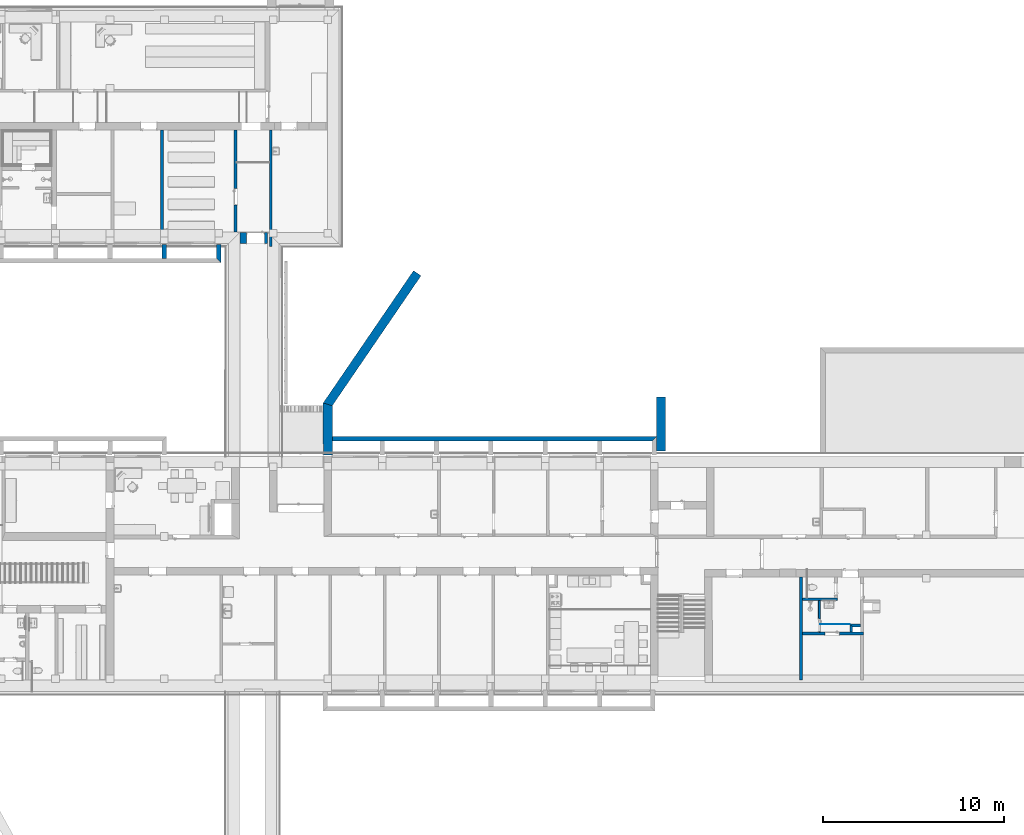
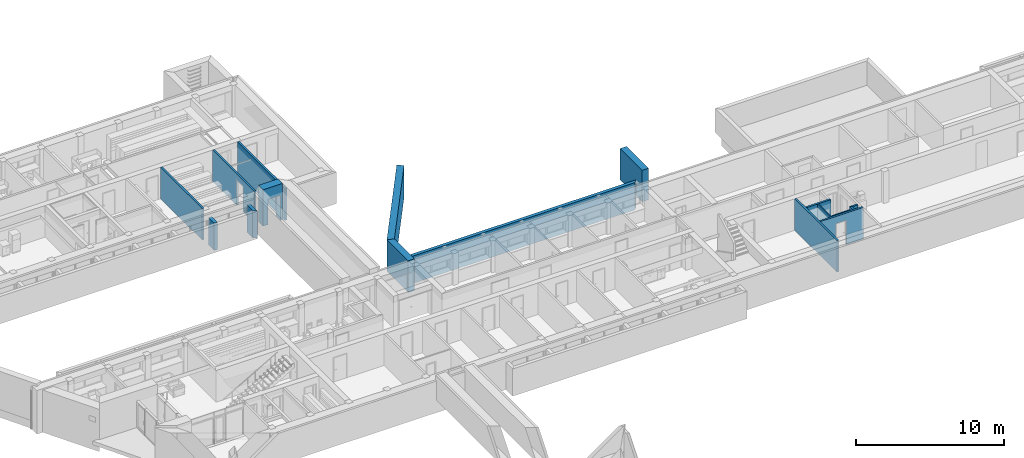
# One storey, part 11 of 127: 17 walls, 4 openings.
"""IFC2X3 building model written with IfcOpenShell, lengths in millimetres."""

from ifc_helpers import new_model, entity, si_unit, converted_unit, derived_unit, money_unit, direction, frame, origin_with_axes, origin_2d_with_axis, place, context, subcontext, project, spatial, polyline, rectangle, outline, extrude, material, layer, layer_set, layer_usage, type_object, element, save


model = new_model("IFC2X3")

# Units and contexts
model_context = context("Model", 3, precision=1e-05, world=origin_with_axes(), true_north=direction((0.0, 1.0)))
body_context = subcontext(model_context, "Body", "Model", "MODEL_VIEW")
ifc_project = project(units=[si_unit("LENGTHUNIT", "METRE", prefix="MILLI"), si_unit("AREAUNIT", "SQUARE_METRE"), si_unit("VOLUMEUNIT", "CUBIC_METRE"), converted_unit("PLANEANGLEUNIT", "DEGREE", entity("IfcPlaneAngleMeasure", 0.0174532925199), si_unit("PLANEANGLEUNIT", "RADIAN"), dimensions=[0, 0, 0, 0, 0, 0, 0]), si_unit("SOLIDANGLEUNIT", "STERADIAN"), money_unit("EUR"), converted_unit("TIMEUNIT", "Year", entity("IfcTimeMeasure", 31556926.0), si_unit("TIMEUNIT", "SECOND"), dimensions=[0, 0, 1, 0, 0, 0, 0]), si_unit("MASSUNIT", "GRAM", prefix="KILO"), si_unit("THERMODYNAMICTEMPERATUREUNIT", "DEGREE_CELSIUS"), si_unit("LUMINOUSINTENSITYUNIT", "LUMEN"), si_unit("ENERGYUNIT", "JOULE", prefix="MEGA"), derived_unit("THERMALCONDUCTANCEUNIT", [(si_unit("POWERUNIT", "WATT"), 1), (si_unit("LENGTHUNIT", "METRE"), -1), (si_unit("THERMODYNAMICTEMPERATUREUNIT", "KELVIN"), -1)]), derived_unit("SPECIFICHEATCAPACITYUNIT", [(si_unit("ENERGYUNIT", "JOULE"), 1), (si_unit("MASSUNIT", "GRAM", prefix="KILO"), -1), (si_unit("THERMODYNAMICTEMPERATUREUNIT", "KELVIN"), -1)]), derived_unit("MASSDENSITYUNIT", [(si_unit("MASSUNIT", "GRAM", prefix="KILO"), 1), (si_unit("VOLUMEUNIT", "CUBIC_METRE"), -1)])], contexts=[model_context])

# Site, building, storey
site_placement = place(None, origin_with_axes())
site = spatial("IfcSite", under=ifc_project, at=site_placement, Name="Site", CompositionType="ELEMENT")
building_placement = place(site_placement, origin_with_axes())
building = spatial("IfcBuilding", under=site, at=building_placement, Name="Building", CompositionType="ELEMENT")
storey_placement = place(building_placement, origin_with_axes())
storey = spatial("IfcBuildingStorey", under=building, at=storey_placement, Name="1 KORRUS", CompositionType="ELEMENT", Elevation=0.0)

# Wall
ifc_material_1 = material(Name="Kivi -Ol.Olev Konstruktsioon")
ifc_layer_1 = layer(ifc_material_1, 150.0, ventilated="UNKNOWN")
ifc_layer_set_1 = layer_set([ifc_layer_1], Name="ol.olev ss 150")
ifc_layer_usage_1 = layer_usage(ifc_layer_set_1, "AXIS2", "NEGATIVE", 150.0)
wall_type_1 = type_object("IfcWallType", Name="SW - 036", PredefinedType="NOTDEFINED")
wall_1_placement = place(storey_placement, frame((39733.2475145, 65636.3690561, 0.0), z_axis=(0.0, 0.0, 1.0), x_axis=(0.0, -1.0, 0.0)))
element("IfcWallStandardCase", 1, at=wall_1_placement, inside=storey, type_object=wall_type_1, material=ifc_layer_usage_1, Name="ol.olev ss 150", context=body_context, shape_type="SweptSolid", body=[
    extrude(outline(polyline([(420.0, 0.0), (6836.93188809, 0.0), (6836.93188809, 150.0), (420.0, 150.0), (420.0, 0.0)])), origin_with_axes(), (0.0, 0.0, 1.0), 2600.0),
])

# Wall, opening
ifc_layer_usage_2 = layer_usage(ifc_layer_set_1, "AXIS2", "POSITIVE", 0.0)
wall_2_placement = place(storey_placement, frame((37793.462216, 65636.3690561, 0.0), z_axis=(0.0, 0.0, 1.0), x_axis=(0.0, -1.0, 0.0)))
wall_2 = element("IfcWallStandardCase", 2, at=wall_2_placement, inside=storey, type_object=wall_type_1, material=ifc_layer_usage_2, Name="ol.olev ss 150", context=body_context, shape_type="SweptSolid", body=[
    extrude(outline(polyline([(420.0, 0.0), (6047.24114854, 0.0), (6047.24114854, 150.0), (420.0, 150.0), (420.0, 0.0)])), origin_with_axes(), (0.0, 0.0, 1.0), 2600.0),
])
opening_1_placement = place(wall_2_placement, frame((4090.35977759, 0.0, 0.0), z_axis=(0.0, 0.0, 1.0), x_axis=(1.0, 0.0, 0.0)))
element("IfcOpeningElement", 3, at=opening_1_placement, cuts=wall_2, Name="Siseuks * Door 22", context=body_context, shape_type="SweptSolid", body=[
    extrude(rectangle(XDim=900.0, YDim=2100.0, at=origin_2d_with_axis()), frame((0.0, 150.0, 1050.0), z_axis=(0.0, 1.0, 0.0), x_axis=(1.0, 0.0, 0.0)), (0.0, 0.0, -1.0), 450.0),
    extrude(rectangle(XDim=974.0, YDim=2137.0, at=origin_2d_with_axis()), frame((0.0, 150.0, 1068.5), z_axis=(0.0, 1.0, 0.0), x_axis=(1.0, 0.0, 0.0)), (0.0, 0.0, 1.0), 150.0),
    extrude(rectangle(XDim=974.0, YDim=2137.0, at=origin_2d_with_axis()), frame((0.0, 0.0, 1068.5), z_axis=(0.0, -1.0, 0.0), x_axis=(1.0, 0.0, 0.0)), (0.0, 0.0, 1.0), 150.0),
])

# Walls
ifc_layer_usage_3 = layer_usage(ifc_layer_set_1, "AXIS2", "POSITIVE", 0.0)
wall_3_placement = place(storey_placement, frame((33734.6783438, 65636.3690561, 0.0), z_axis=(0.0, 0.0, 1.0), x_axis=(0.0, -1.0, 0.0)))
element("IfcWallStandardCase", 4, at=wall_3_placement, inside=storey, type_object=wall_type_1, material=ifc_layer_usage_3, Name="ol.olev ss 150", context=body_context, shape_type="SweptSolid", body=[
    extrude(outline(polyline([(420.0, 0.0), (6047.73738995, 0.0), (6047.72028695, 150.0), (420.0, 150.0), (420.0, 0.0)])), origin_with_axes(), (0.0, 0.0, 1.0), 2600.0),
])
ifc_layer_usage_4 = layer_usage(ifc_layer_set_1, "AXIS2", "POSITIVE", 0.0)
wall_4_placement = place(storey_placement, frame((68966.1772401, 40582.5420651, 0.0), z_axis=(0.0, 0.0, 1.0), x_axis=(0.000221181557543, -0.999999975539, 0.0)))
element("IfcWallStandardCase", 5, at=wall_4_placement, inside=storey, type_object=wall_type_1, material=ifc_layer_usage_4, Name="ol.olev ss 150", context=body_context, shape_type="SweptSolid", body=[
    extrude(outline(polyline([(0.0, 0.0), (5692.1610269, 0.0), (5692.18399011, 150.0), (9.09494701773e-10, 150.0), (0.0, 0.0)])), origin_with_axes(), (0.0, 0.0, 1.0), 2600.0),
])

# Wall, opening
ifc_layer_2 = layer(ifc_material_1, 100.0, ventilated="UNKNOWN")
ifc_layer_set_2 = layer_set([ifc_layer_2], Name="ol.olev ss 100")
ifc_layer_usage_5 = layer_usage(ifc_layer_set_2, "AXIS2", "POSITIVE", 0.0)
wall_5_placement = place(storey_placement, frame((69999.2702894, 39274.0649255, 0.0), z_axis=(0.0, 0.0, 1.0), x_axis=(0.0, -1.0, 0.0)))
wall_5 = element("IfcWallStandardCase", 6, at=wall_5_placement, inside=storey, type_object=wall_type_1, material=ifc_layer_usage_5, Name="ol.olev ss 100", context=body_context, shape_type="SweptSolid", body=[
    extrude(outline(polyline([(0.0, 0.0), (1739.99999933, 0.0), (1739.99999934, 100.0), (0.0, 100.0), (0.0, 0.0)])), origin_with_axes(), (0.0, 0.0, 1.0), 2600.0),
])
opening_2_placement = place(wall_5_placement, frame((1354.10934327, 0.0, 0.0), z_axis=(0.0, 0.0, 1.0), x_axis=(1.0, 0.0, 0.0)))
element("IfcOpeningElement", 7, at=opening_2_placement, cuts=wall_5, Name="Siseuks * Door 22", context=body_context, shape_type="SweptSolid", body=[
    extrude(rectangle(XDim=700.000000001, YDim=2000.0, at=origin_2d_with_axis()), frame((0.0, -100.0, 1000.0), z_axis=(0.0, 1.0, 0.0), x_axis=(1.0, 0.0, 0.0)), (0.0, 0.0, 1.0), 300.0),
    extrude(rectangle(XDim=773.999999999, YDim=2037.0, at=origin_2d_with_axis()), frame((0.0, 0.0, 1018.5), z_axis=(0.0, 1.0, 0.0), x_axis=(1.0, 0.0, 0.0)), (0.0, 0.0, -1.0), 100.0),
    extrude(rectangle(XDim=773.999999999, YDim=2037.0, at=origin_2d_with_axis()), frame((0.0, 100.0, 1018.5), z_axis=(0.0, -1.0, 0.0), x_axis=(1.0, 0.0, 0.0)), (0.0, 0.0, -1.0), 100.0),
])

# Wall
ifc_layer_usage_6 = layer_usage(ifc_layer_set_1, "AXIS2", "POSITIVE", 0.0)
wall_6_placement = place(storey_placement, frame((68966.4666511, 39274.0649255, 0.0), z_axis=(0.0, 0.0, 1.0), x_axis=(1.0, 0.0, 0.0)))
element("IfcWallStandardCase", 8, at=wall_6_placement, inside=storey, type_object=wall_type_1, material=ifc_layer_usage_6, Name="ol.olev ss 150", context=body_context, shape_type="SweptSolid", body=[
    extrude(outline(polyline([(150.00000367, 0.0), (2070.72989408, 0.0), (2070.72989408, 150.0), (149.966826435, 150.0), (150.00000367, 0.0)])), origin_with_axes(), (0.0, 0.0, 1.0), 2600.0),
])

# Wall, opening
ifc_layer_usage_7 = layer_usage(ifc_layer_set_1, "AXIS2", "POSITIVE", 0.0)
wall_7_placement = place(storey_placement, frame((68966.8846843, 37384.0649263, 0.0), z_axis=(0.0, 0.0, 1.0), x_axis=(1.0, -1.34713439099e-10, 0.0)))
wall_7 = element("IfcWallStandardCase", 9, at=wall_7_placement, inside=storey, type_object=wall_type_1, material=ifc_layer_usage_7, Name="ol.olev ss 150", context=body_context, shape_type="SweptSolid", body=[
    extrude(outline(polyline([(150.000003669, 0.0), (3510.69090126, 0.0), (3510.69090126, 150.0), (149.966826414, 150.0), (150.000003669, 0.0)])), origin_with_axes(), (0.0, 0.0, 1.0), 2600.0),
])
opening_3_placement = place(wall_7_placement, frame((1781.25722341, -9.09494701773e-10, 0.0), z_axis=(0.0, 0.0, 1.0), x_axis=(1.0, 0.0, 0.0)))
element("IfcOpeningElement", 10, at=opening_3_placement, cuts=wall_7, Name="Siseuks * Door 22", context=body_context, shape_type="SweptSolid", body=[
    extrude(rectangle(XDim=800.0, YDim=2000.0, at=origin_2d_with_axis()), frame((2.02362571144e-08, -150.0, 1000.0), z_axis=(1.34713439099e-10, -1.0, 0.0), x_axis=(-1.0, -1.34713439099e-10, 0.0)), (0.0, 0.0, -1.0), 450.0),
    extrude(rectangle(XDim=874.0, YDim=2037.0, at=origin_2d_with_axis()), frame((0.0, 2.40106601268e-07, 1018.5), z_axis=(1.34713439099e-10, -1.0, 0.0), x_axis=(-1.0, -1.34713439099e-10, 0.0)), (0.0, 0.0, 1.0), 150.0),
    extrude(rectangle(XDim=874.0, YDim=2037.0, at=origin_2d_with_axis()), frame((-2.01225702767e-08, 150.00000024, 1018.5), z_axis=(-1.34713439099e-10, 1.0, 0.0), x_axis=(-1.0, -1.34713439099e-10, 0.0)), (0.0, 0.0, 1.0), 150.0),
])

# Walls
ifc_material_2 = material(Name="Kivi - Ol.Olev Konstruktsioon")
ifc_layer_3 = layer(ifc_material_2, 250.0, ventilated="UNKNOWN")
ifc_layer_set_3 = layer_set([ifc_layer_3], Name="Ol.olve tugimüür 250")
ifc_layer_usage_8 = layer_usage(ifc_layer_set_3, "AXIS2", "NEGATIVE", 125.0)
wall_type_2 = type_object("IfcWallType", Name="SW - 029", PredefinedType="NOTDEFINED")
wall_8_placement = place(storey_placement, frame((36946.2570182, 58908.8769096, 0.0), z_axis=(0.0, 0.0, 1.0), x_axis=(0.0, -1.0, 0.0)))
element("IfcWallStandardCase", 11, at=wall_8_placement, inside=storey, type_object=wall_type_2, material=ifc_layer_usage_8, Name="Ol.olve tugimüür 250", context=body_context, shape_type="SweptSolid", body=[
    extrude(outline(polyline([(0.0, -125.0), (772.169805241, -125.0), (1022.16980524, 125.0), (0.0, 125.0), (0.0, -125.0)])), origin_with_axes(), (0.0, 0.0, 1.0), 2250.0),
])
ifc_layer_usage_9 = layer_usage(ifc_layer_set_3, "AXIS2", "NEGATIVE", 125.0)
wall_9_placement = place(storey_placement, frame((33946.2570182, 58908.4534807, 0.0), z_axis=(0.0, 0.0, 1.0), x_axis=(0.0, -1.0, 0.0)))
element("IfcWallStandardCase", 12, at=wall_9_placement, inside=storey, type_object=wall_type_2, material=ifc_layer_usage_9, Name="Ol.olve tugimüür 250", context=body_context, shape_type="SweptSolid", body=[
    extrude(outline(polyline([(0.0, -125.0), (771.746376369, -125.0), (771.746376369, 125.0), (0.0, 125.0), (0.0, -125.0)])), origin_with_axes(), (0.0, 0.0, 1.0), 2250.0),
])
ifc_layer_4 = layer(ifc_material_2, 500.0, ventilated="UNKNOWN")
ifc_layer_set_4 = layer_set([ifc_layer_4], Name="Ol.olve tugimüür 500")
ifc_layer_usage_10 = layer_usage(ifc_layer_set_4, "AXIS2", "POSITIVE", -500.0)
wall_type_3 = type_object("IfcWallType", Name="VS3", PredefinedType="NOTDEFINED")
wall_10_placement = place(storey_placement, frame((42698.2967935, 50172.3629376, 0.0), z_axis=(0.0, 0.0, 1.0), x_axis=(0.563974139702, 0.825792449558, 0.0)))
element("IfcWallStandardCase", 13, at=wall_10_placement, inside=storey, type_object=wall_type_3, material=ifc_layer_usage_10, Name="Ol.olve tugimüür 500", context=body_context, shape_type="SweptSolid", body=[
    extrude(outline(polyline([(154.875354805, -500.0), (8829.70511007, -500.0), (8829.70511007, 0.0), (0.0, 0.0), (154.875354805, -500.0)])), origin_with_axes(), (0.0, 0.0, 1.0), 2600.0),
])
ifc_layer_usage_11 = layer_usage(ifc_layer_set_4, "AXIS2", "POSITIVE", -500.0)
wall_11_placement = place(storey_placement, frame((42702.7912407, 47302.325893, 0.0), z_axis=(0.0, 0.0, 1.0), x_axis=(-0.0015659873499, 0.999998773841, 0.0)))
element("IfcWallStandardCase", 14, at=wall_11_placement, inside=storey, type_object=wall_type_3, material=ifc_layer_usage_11, Name="Ol.olve tugimüür 500", context=body_context, shape_type="SweptSolid", body=[
    extrude(outline(polyline([(0.0, -500.0), (2715.16520894, -500.0), (2870.04056374, 0.0), (0.0, 0.0), (0.0, -500.0)])), origin_with_axes(), (0.0, 0.0, 1.0), 2600.0),
])
ifc_layer_usage_12 = layer_usage(ifc_layer_set_4, "AXIS2", "POSITIVE", -500.0)
wall_12_placement = place(storey_placement, frame((61069.6870122, 47302.325893, 904.64568023), z_axis=(0.0, 0.0, 1.0), x_axis=(0.0, 1.0, 0.0)))
element("IfcWallStandardCase", 15, at=wall_12_placement, inside=storey, type_object=wall_type_3, material=ifc_layer_usage_12, Name="Ol.olve tugimüür 500", context=body_context, shape_type="SweptSolid", body=[
    extrude(outline(polyline([(219.999999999, -500.0), (3192.10370927, -500.0), (3192.10370927, 0.0), (219.999999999, 0.0), (219.999999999, -500.0)])), origin_with_axes(), (0.0, 0.0, 1.0), 2600.0),
])
ifc_layer_usage_13 = layer_usage(ifc_layer_set_3, "AXIS2", "NEGATIVE", 250.0)
wall_type_4 = type_object("IfcWallType", Name="SW - 027", PredefinedType="NOTDEFINED")
wall_13_placement = place(storey_placement, frame((60944.7526328, 48315.2299316, 0.0), z_axis=(0.0, 0.0, 1.0), x_axis=(-1.0, 0.0, 0.0)))
element("IfcWallStandardCase", 16, at=wall_13_placement, inside=storey, type_object=wall_type_4, material=ifc_layer_usage_13, Name="Ol.olve tugimüür 250", context=body_context, shape_type="SweptSolid", body=[
    extrude(outline(polyline([(-125.000003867, 0.0), (17743.5469759, 0.0), (17743.1554785, 250.0), (125.062191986, 250.0), (-125.000003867, 0.0)])), origin_with_axes(), (0.0, 0.0, 1.0), 2250.0),
])

# Wall, opening
ifc_layer_5 = layer(ifc_material_1, 630.0, ventilated="UNKNOWN")
ifc_layer_set_5 = layer_set([ifc_layer_5], Name="ol.olev ss 630")
ifc_layer_usage_14 = layer_usage(ifc_layer_set_5, "AXIS2", "POSITIVE", -780.0)
wall_type_5 = type_object("IfcWallType", Name="SS", PredefinedType="NOTDEFINED")
wall_14_placement = place(storey_placement, frame((40265.7155629, 58799.437168, 0.0), z_axis=(0.0, 0.0, 1.0), x_axis=(-0.99999998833, -0.000152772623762, 0.0)))
wall_14 = element("IfcWallStandardCase", 17, at=wall_14_placement, inside=storey, type_object=wall_type_5, material=ifc_layer_usage_14, Name="ol.olev ss 630", context=body_context, shape_type="SweptSolid", body=[
    extrude(outline(polyline([(630.934460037, -780.000000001), (2149.17759971, -780.0), (2149.50263267, -150.000000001), (630.180068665, -150.000000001), (630.934460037, -780.000000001)])), origin_with_axes(), (0.0, 0.0, 1.0), 3000.0),
])
opening_4_placement = place(wall_14_placement, frame((1289.82313186, 0.0, 0.0), z_axis=(0.0, 0.0, 1.0), x_axis=(1.0, 0.0, 0.0)))
element("IfcOpeningElement", 18, at=opening_4_placement, cuts=wall_14, Name="Siseuks * Door 22", context=body_context, shape_type="SweptSolid", body=[
    extrude(rectangle(XDim=1000.0, YDim=2100.0, at=origin_2d_with_axis()), frame((1.13686837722e-10, 630.0, 1050.0), z_axis=(0.0, 1.0, 0.0), x_axis=(1.0, 0.0, 0.0)), (0.0, 0.0, -1.0), 1890.0),
    extrude(rectangle(XDim=1074.0, YDim=2137.0, at=origin_2d_with_axis()), frame((0.0, -150.0, 1068.5), z_axis=(0.0, 1.0, 0.0), x_axis=(1.0, 0.0, 0.0)), (0.0, 0.0, 1.0), 630.0),
    extrude(rectangle(XDim=1074.0, YDim=2137.0, at=origin_2d_with_axis()), frame((0.0, -780.000000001, 1068.5), z_axis=(0.0, -1.0, 0.0), x_axis=(1.0, 0.0, 0.0)), (0.0, 0.0, 1.0), 630.0),
])

# Walls
ifc_material_3 = material(Name="Kivi -  Uus Konstruktsioon")
ifc_layer_6 = layer(ifc_material_3, 150.0, ventilated="UNKNOWN")
ifc_layer_set_6 = layer_set([ifc_layer_6], Name="uus ss 150")
ifc_layer_usage_15 = layer_usage(ifc_layer_set_6, "AXIS2", "NEGATIVE", 0.0)
wall_type_6 = type_object("IfcWallType", Name="SS-1", PredefinedType="NOTDEFINED")
wall_15_placement = place(storey_placement, frame((72327.5755855, 37833.9638436, 0.0), z_axis=(0.0, 0.0, 1.0), x_axis=(-1.0, 0.0, 0.0)))
element("IfcWallStandardCase", 19, at=wall_15_placement, inside=storey, type_object=wall_type_6, material=ifc_layer_usage_15, Name="uus ss 150", context=body_context, shape_type="SweptSolid", body=[
    extrude(outline(polyline([(0.0, -150.0), (590.280220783, -150.0), (440.280220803, 0.0), (0.0, 0.0), (0.0, -150.0)])), origin_with_axes(), (0.0, 0.0, 1.0), 2600.0),
])
ifc_layer_usage_16 = layer_usage(ifc_layer_set_6, "AXIS2", "NEGATIVE", 0.0)
wall_16_placement = place(storey_placement, frame((71887.2953647, 37833.9638436, 0.0), z_axis=(0.0, 0.0, 1.0), x_axis=(-1.34433303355e-10, -1.0, 0.0)))
element("IfcWallStandardCase", 20, at=wall_16_placement, inside=storey, type_object=wall_type_6, material=ifc_layer_usage_16, Name="uus ss 150", context=body_context, shape_type="SweptSolid", body=[
    extrude(outline(polyline([(-149.99999998, -150.0), (299.898917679, -150.0), (299.898917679, 0.0), (0.0, 0.0), (-149.99999998, -150.0)])), origin_with_axes(), (0.0, 0.0, 1.0), 2600.0),
])
ifc_material_4 = material(Name="Kipsplaat")
ifc_layer_7 = layer(ifc_material_4, 13.0, ventilated="UNKNOWN")
ifc_layer_set_7 = layer_set([ifc_layer_7], Name="Kipsplaat 13")
ifc_layer_usage_17 = layer_usage(ifc_layer_set_7, "AXIS2", "POSITIVE", 0.0)
wall_type_7 = type_object("IfcWallType", Name="loputuskasti raam", PredefinedType="NOTDEFINED")
wall_17_placement = place(storey_placement, frame((71737.2953647, 37983.9638436, 2079.14562367), z_axis=(0.0, 0.0, 1.0), x_axis=(-1.0, 0.0, 0.0)))
element("IfcWallStandardCase", 21, at=wall_17_placement, inside=storey, type_object=wall_type_7, material=ifc_layer_usage_17, Name="Kipsplaat", context=body_context, shape_type="SweptSolid", body=[
    extrude(outline(polyline([(0.0, 0.0), (1638.02507534, 0.0), (1638.02507534, 12.9999999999), (0.0, 12.9999999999), (0.0, 0.0)])), origin_with_axes(), (0.0, 0.0, 1.0), 246.854376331),
])

save(model, "model.ifc")
